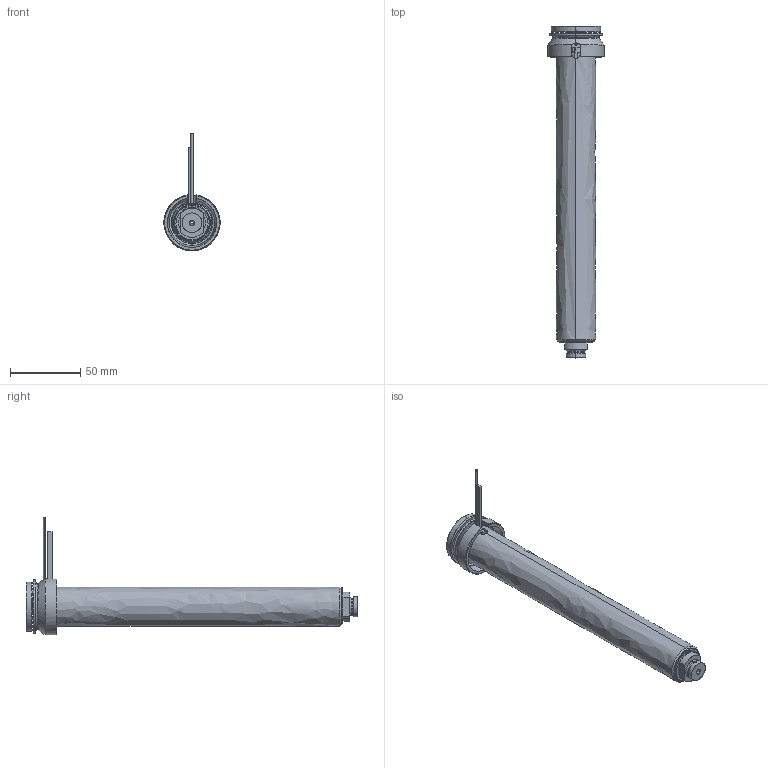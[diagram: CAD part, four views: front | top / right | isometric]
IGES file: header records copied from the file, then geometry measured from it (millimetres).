
Start section: SolidWorks IGES file using analytic representation for surfaces
Global section: file name: C:\Documents and Settings\ws-20\Desktop\TEMPORANEA\UGBE4005-S-A-5 [Ød-2.0 P-0 ØC-10].IGS; native system: SolidWorks 2012; preprocessor: SolidWorks 2012; author: ws-20; date: 120306.141257; units: millimetre
Bounding box: 40 x 236 x 83.65 mm (x, y, z)
Surface area: 69496.3 mm2 (no closed solid volume)
Topology: 0 solids, 0 shells, 109 faces, 1907 edges, 1907 vertices
Faces by surface type: revolution 66, bspline 43
